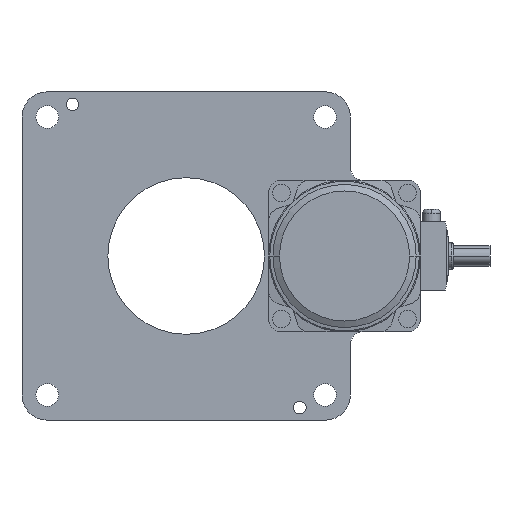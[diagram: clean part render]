
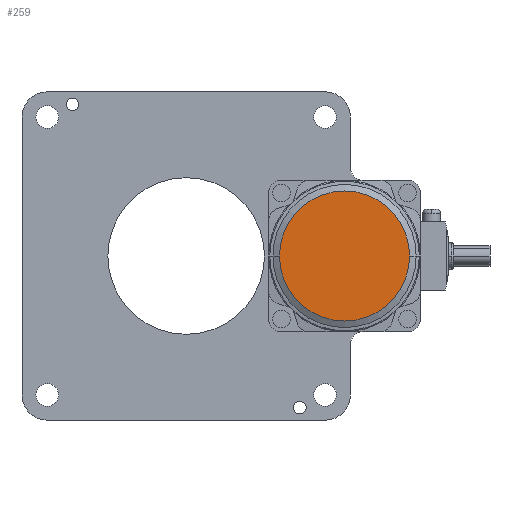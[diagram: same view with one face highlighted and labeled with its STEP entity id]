
A CAD part, left-side view. The second image highlights one B-rep face of the part: STEP entity #259.
In plain terms, the highlighted planar face has unit normal (-1, 0, 0).
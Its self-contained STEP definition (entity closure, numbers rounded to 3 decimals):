
#259 = ADVANCED_FACE( '', ( #896 ), #897, .F. );
#896 = FACE_OUTER_BOUND( '', #1934, .T. );
#897 = PLANE( '', #1935 );
#1934 = EDGE_LOOP( '', ( #3813, #3814 ) );
#1935 = AXIS2_PLACEMENT_3D( '', #3815, #3816, #3817 );
#3813 = ORIENTED_EDGE( '', *, *, #7057, .T. );
#3814 = ORIENTED_EDGE( '', *, *, #6937, .T. );
#3815 = CARTESIAN_POINT( '', ( -136.5, 0., 0. ) );
#3816 = DIRECTION( '', ( 1., 0., 0. ) );
#3817 = DIRECTION( '', ( 0., 0., -1. ) );
#6937 = EDGE_CURVE( '', #8373, #8371, #8374, .T. );
#7057 = EDGE_CURVE( '', #8371, #8373, #8581, .T. );
#8371 = VERTEX_POINT( '', #10666 );
#8373 = VERTEX_POINT( '', #10669 );
#8374 = CIRCLE( '', #10670, 25.75 );
#8581 = CIRCLE( '', #11180, 25.75 );
#10666 = CARTESIAN_POINT( '', ( -136.5, -36.95, 0. ) );
#10669 = CARTESIAN_POINT( '', ( -136.5, -88.45, 0. ) );
#10670 = AXIS2_PLACEMENT_3D( '', #14129, #14130, #14131 );
#11180 = AXIS2_PLACEMENT_3D( '', #14314, #14315, #14316 );
#14129 = CARTESIAN_POINT( '', ( -136.5, -62.7, 0. ) );
#14130 = DIRECTION( '', ( -1., 0., 0. ) );
#14131 = DIRECTION( '', ( 0., 1., 0. ) );
#14314 = CARTESIAN_POINT( '', ( -136.5, -62.7, 0. ) );
#14315 = DIRECTION( '', ( -1., 0., 0. ) );
#14316 = DIRECTION( '', ( 0., 1., 0. ) );
